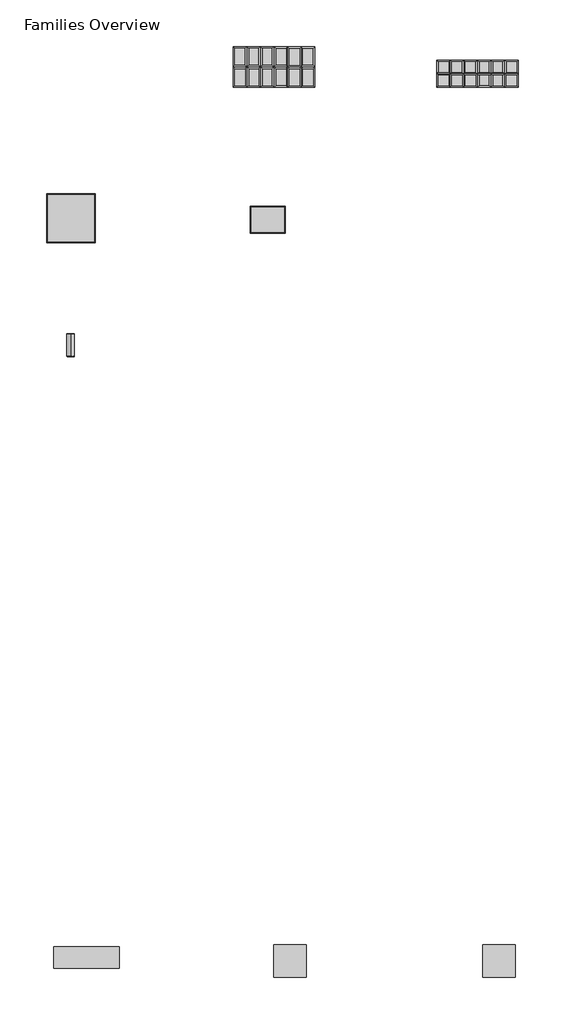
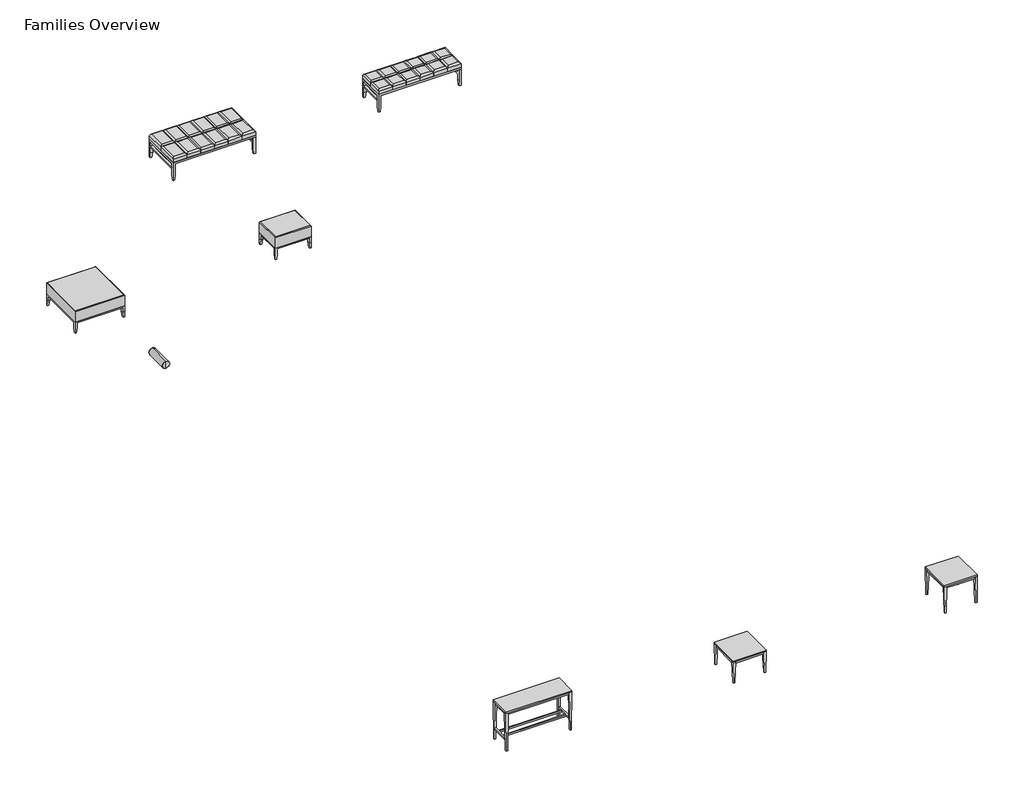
# One storey, incomplete: 8 furniture elements.
"""IFC4 building model written with IfcOpenShell, lengths in millimetres."""

from ifc_helpers import new_model, si_unit, origin, place, context, project, spatial, transform, mapped, element, save
from components import furniture_47a4f57b, furniture_c56e84ff, furniture_b1196c01, furniture_3766e529, furniture_ded83b1d, furniture_429d2503, furniture_f0c5a1ee, furniture_44acf5a9

model = new_model("IFC4")

# Units and contexts
model_context = context("Model", 3, world=origin())
ifc_project = project(units=[si_unit("LENGTHUNIT", "METRE", prefix="MILLI")], contexts=[model_context])

# Site, building, storey
site = spatial("IfcSite", under=ifc_project)
building = spatial("IfcBuilding", under=site)
storey = spatial("IfcBuildingStorey", under=building, Name="Families Overview", Elevation=0.0)

# Furniture
placement = place(None, origin())
furniture_shape = furniture_47a4f57b(model_context)
element("IfcFurniture", 1, ObjectType="Steelcase Coalesse - Passerelle - Seating - Arm Bolster : Arm Bolster", at=placement, inside=storey, context=model_context, shape_type="MappedRepresentation", body=[
    mapped(furniture_shape, transform((-36678.7540325, 24507.2302612, 0.0), x_axis=(1.0, 0.0, 0.0), y_axis=(0.0, 1.0, 0.0), z_axis=(0.0, 0.0, 1.0))),
])
furniture_2_shape = furniture_c56e84ff(model_context)
element("IfcFurniture", 2, ObjectType="Steelcase Coalesse - Passerelle - Seating - Bench : 30D x 60W", at=placement, inside=storey, context=model_context, shape_type="MappedRepresentation", body=[
    mapped(furniture_2_shape, transform((-33641.1830036, 30302.136108, 0.0), x_axis=(1.0, 0.0, 0.0), y_axis=(0.0, 1.0, 0.0), z_axis=(0.0, 0.0, 1.0))),
])
furniture_3_shape = furniture_b1196c01(model_context)
element("IfcFurniture", 3, ObjectType="Steelcase Coalesse - Passerelle - Seating - Bench : 20D x 60W", at=placement, inside=storey, context=model_context, shape_type="MappedRepresentation", body=[
    mapped(furniture_3_shape, transform((-29841.6119747, 30048.136108, 0.0), x_axis=(1.0, 0.0, 0.0), y_axis=(0.0, 1.0, 0.0), z_axis=(0.0, 0.0, 1.0))),
])
furniture_4_shape = furniture_3766e529(model_context)
element("IfcFurniture", 4, ObjectType="Steelcase Coalesse - Passerelle - Seating - Ottoman : 20D x 26W", at=placement, inside=storey, context=model_context, shape_type="MappedRepresentation", body=[
    mapped(furniture_4_shape, transform((-33325.9540325, 27320.549747, 0.0), x_axis=(1.0, 0.0, 0.0), y_axis=(0.0, 1.0, 0.0), z_axis=(0.0, 0.0, 1.0))),
])
furniture_5_shape = furniture_ded83b1d(model_context)
element("IfcFurniture", 5, ObjectType="Steelcase Coalesse - Passerelle - Seating - Ottoman : 36D x 36W", at=placement, inside=storey, context=model_context, shape_type="MappedRepresentation", body=[
    mapped(furniture_5_shape, transform((-37130.3480654, 27548.8988351, 0.0), x_axis=(1.0, 0.0, 0.0), y_axis=(0.0, 1.0, 0.0), z_axis=(0.0, 0.0, 1.0))),
])
furniture_6_shape = furniture_429d2503(model_context)
element("IfcFurniture", 6, ObjectType="Steelcase Coalesse - Passerelle - Table : 16D x 48W x 30H", at=placement, inside=storey, context=model_context, shape_type="MappedRepresentation", body=[
    mapped(furniture_6_shape, transform((-37657.9009256, 13695.7131787, 0.0), x_axis=(1.0, 0.0, 0.0), y_axis=(0.0, 1.0, 0.0), z_axis=(0.0, 0.0, 1.0))),
])
furniture_7_shape = furniture_f0c5a1ee(model_context)
element("IfcFurniture", 7, ObjectType="Steelcase Coalesse - Passerelle - Table : 24D x 24W x 17H", at=placement, inside=storey, context=model_context, shape_type="MappedRepresentation", body=[
    mapped(furniture_7_shape, transform((-33553.5298967, 13728.8863718, 0.0), x_axis=(1.0, 0.0, 0.0), y_axis=(0.0, 1.0, 0.0), z_axis=(0.0, 0.0, 1.0))),
])
furniture_8_shape = furniture_44acf5a9(model_context)
element("IfcFurniture", 8, ObjectType="Steelcase Coalesse - Passerelle - Table : 24D x 24W x 21H", at=placement, inside=storey, context=model_context, shape_type="MappedRepresentation", body=[
    mapped(furniture_8_shape, transform((-29648.1578241, 13728.8863718, 0.0), x_axis=(1.0, 0.0, 0.0), y_axis=(0.0, 1.0, 0.0), z_axis=(0.0, 0.0, 1.0))),
])

save(model, "model.ifc")
